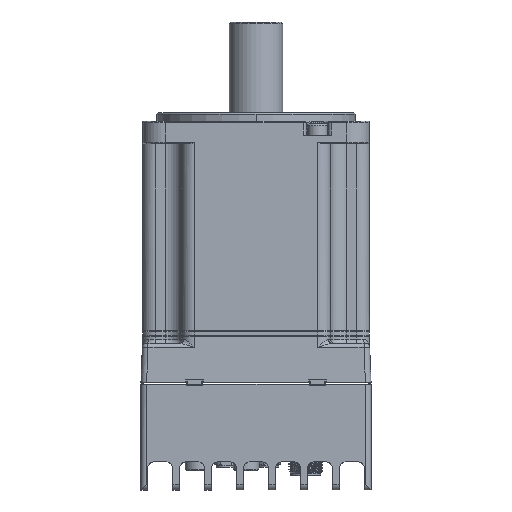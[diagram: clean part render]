
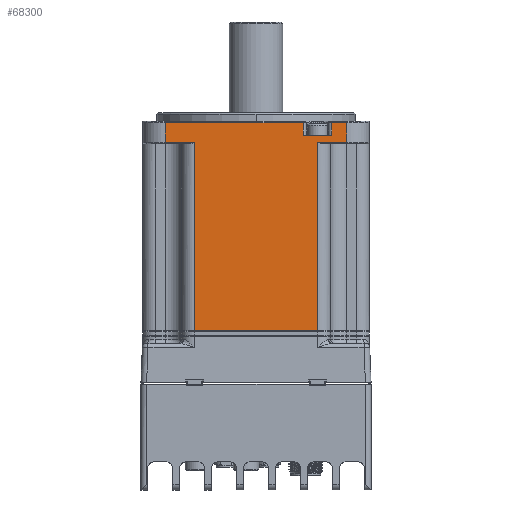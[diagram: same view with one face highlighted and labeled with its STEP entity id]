
A CAD part, front view. The second image highlights one B-rep face of the part: STEP entity #68300.
In plain terms, the highlighted planar face has unit normal (0, -1, 0).
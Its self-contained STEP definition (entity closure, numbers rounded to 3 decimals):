
#3789 = CARTESIAN_POINT ( 'NONE',  ( 21.75, -31.858, 26.51 ) ) ;
#4198 = CARTESIAN_POINT ( 'NONE',  ( 16.684, -31.858, 29.01 ) ) ;
#4343 = CARTESIAN_POINT ( 'NONE',  ( 26.684, -31.858, 29.01 ) ) ;
#4485 = VECTOR ( 'NONE', #50437, 1000. ) ;
#4823 = ORIENTED_EDGE ( 'NONE', *, *, #61426, .T. ) ;
#5024 = EDGE_CURVE ( 'NONE', #34224, #65947, #62371, .T. ) ;
#5819 = LINE ( 'NONE', #25052, #29388 ) ;
#6743 = VERTEX_POINT ( 'NONE', #86342 ) ;
#6771 = CARTESIAN_POINT ( 'NONE',  ( -21.75, -31.858, -39.99 ) ) ;
#7351 = DIRECTION ( 'NONE',  ( 0., 1., 0. ) ) ;
#7800 = VECTOR ( 'NONE', #67880, 1000. ) ;
#8223 = EDGE_CURVE ( 'NONE', #43093, #20001, #13512, .T. ) ;
#9158 = VECTOR ( 'NONE', #64907, 1000. ) ;
#10995 = CARTESIAN_POINT ( 'NONE',  ( 32., -31.858, 26.51 ) ) ;
#11133 = LINE ( 'NONE', #50824, #75908 ) ;
#11795 = DIRECTION ( 'NONE',  ( 0., 0., 1. ) ) ;
#11840 = VECTOR ( 'NONE', #15787, 1000. ) ;
#12400 = ORIENTED_EDGE ( 'NONE', *, *, #37027, .F. ) ;
#13512 = LINE ( 'NONE', #6771, #7800 ) ;
#14539 = CARTESIAN_POINT ( 'NONE',  ( 40., -31.858, -39.99 ) ) ;
#15029 = CARTESIAN_POINT ( 'NONE',  ( -32., -31.858, 22.51 ) ) ;
#15246 = LINE ( 'NONE', #45073, #4485 ) ;
#15787 = DIRECTION ( 'NONE',  ( 0., 0., 1. ) ) ;
#16259 = LINE ( 'NONE', #30113, #64856 ) ;
#17507 = CARTESIAN_POINT ( 'NONE',  ( -21.75, -31.858, 26.51 ) ) ;
#17950 = DIRECTION ( 'NONE',  ( -1., 0., 0. ) ) ;
#20001 = VERTEX_POINT ( 'NONE', #48736 ) ;
#20202 = VERTEX_POINT ( 'NONE', #83247 ) ;
#22463 = ORIENTED_EDGE ( 'NONE', *, *, #56523, .T. ) ;
#22504 = EDGE_CURVE ( 'NONE', #25258, #20202, #43549, .T. ) ;
#23339 = CARTESIAN_POINT ( 'NONE',  ( 26.684, -31.858, 33.51 ) ) ;
#25052 = CARTESIAN_POINT ( 'NONE',  ( 26.684, -31.858, 22.51 ) ) ;
#25258 = VERTEX_POINT ( 'NONE', #36769 ) ;
#29388 = VECTOR ( 'NONE', #51801, 1000. ) ;
#30113 = CARTESIAN_POINT ( 'NONE',  ( 16.684, -31.858, 22.51 ) ) ;
#32424 = FACE_OUTER_BOUND ( 'NONE', #55711, .T. ) ;
#33163 = EDGE_CURVE ( 'NONE', #51460, #25258, #15246, .T. ) ;
#34224 = VERTEX_POINT ( 'NONE', #3789 ) ;
#36436 = EDGE_CURVE ( 'NONE', #6743, #34224, #76823, .T. ) ;
#36769 = CARTESIAN_POINT ( 'NONE',  ( -32., -31.858, 33.51 ) ) ;
#37027 = EDGE_CURVE ( 'NONE', #48157, #45505, #48050, .T. ) ;
#37041 = DIRECTION ( 'NONE',  ( 0., 0., 1. ) ) ;
#38487 = LINE ( 'NONE', #23339, #65954 ) ;
#41813 = DIRECTION ( 'NONE',  ( 1., 0., 0. ) ) ;
#41833 = CARTESIAN_POINT ( 'NONE',  ( 40., -31.858, 26.51 ) ) ;
#43093 = VERTEX_POINT ( 'NONE', #17507 ) ;
#43112 = EDGE_CURVE ( 'NONE', #6743, #20001, #79440, .T. ) ;
#43546 = VECTOR ( 'NONE', #48897, 1000. ) ;
#43549 = LINE ( 'NONE', #15029, #43546 ) ;
#45073 = CARTESIAN_POINT ( 'NONE',  ( -32., -31.858, 33.51 ) ) ;
#45505 = VERTEX_POINT ( 'NONE', #4343 ) ;
#47140 = EDGE_CURVE ( 'NONE', #20202, #43093, #72456, .T. ) ;
#47530 = CARTESIAN_POINT ( 'NONE',  ( 32., -31.858, 33.51 ) ) ;
#48050 = LINE ( 'NONE', #82806, #68813 ) ;
#48157 = VERTEX_POINT ( 'NONE', #4198 ) ;
#48736 = CARTESIAN_POINT ( 'NONE',  ( -21.75, -31.858, -39.99 ) ) ;
#48897 = DIRECTION ( 'NONE',  ( 0., 0., -1. ) ) ;
#50437 = DIRECTION ( 'NONE',  ( -1., 0., 0. ) ) ;
#50824 = CARTESIAN_POINT ( 'NONE',  ( 32., -31.858, 22.51 ) ) ;
#51107 = VECTOR ( 'NONE', #17950, 1000. ) ;
#51460 = VERTEX_POINT ( 'NONE', #86699 ) ;
#51801 = DIRECTION ( 'NONE',  ( 0., 0., -1. ) ) ;
#55711 = EDGE_LOOP ( 'NONE', ( #77502, #84527, #66125, #22463, #81013, #4823, #12400, #71049, #82927, #75136, #60819, #66212 ) ) ;
#56523 = EDGE_CURVE ( 'NONE', #65947, #63753, #11133, .T. ) ;
#60819 = ORIENTED_EDGE ( 'NONE', *, *, #47140, .T. ) ;
#61426 = EDGE_CURVE ( 'NONE', #79940, #45505, #5819, .T. ) ;
#61796 = DIRECTION ( 'NONE',  ( 0., 0., 1. ) ) ;
#62371 = LINE ( 'NONE', #41833, #82913 ) ;
#63520 = CARTESIAN_POINT ( 'NONE',  ( 21.75, -31.858, -39.99 ) ) ;
#63753 = VERTEX_POINT ( 'NONE', #47530 ) ;
#64856 = VECTOR ( 'NONE', #11795, 1000. ) ;
#64907 = DIRECTION ( 'NONE',  ( 1., 0., 0. ) ) ;
#65472 = CARTESIAN_POINT ( 'NONE',  ( 26.684, -31.858, 33.51 ) ) ;
#65947 = VERTEX_POINT ( 'NONE', #10995 ) ;
#65954 = VECTOR ( 'NONE', #78575, 1000. ) ;
#66125 = ORIENTED_EDGE ( 'NONE', *, *, #5024, .T. ) ;
#66212 = ORIENTED_EDGE ( 'NONE', *, *, #8223, .T. ) ;
#66884 = AXIS2_PLACEMENT_3D ( 'NONE', #14539, #7351, #61796 ) ;
#67880 = DIRECTION ( 'NONE',  ( 0., 0., -1. ) ) ;
#68139 = DIRECTION ( 'NONE',  ( 1., 0., 0. ) ) ;
#68300 = ADVANCED_FACE ( 'NONE', ( #32424 ), #86765, .F. ) ;
#68813 = VECTOR ( 'NONE', #41813, 1000. ) ;
#70997 = CARTESIAN_POINT ( 'NONE',  ( 40., -31.858, -39.99 ) ) ;
#71049 = ORIENTED_EDGE ( 'NONE', *, *, #74466, .T. ) ;
#71828 = EDGE_CURVE ( 'NONE', #63753, #79940, #38487, .T. ) ;
#72456 = LINE ( 'NONE', #85395, #9158 ) ;
#74466 = EDGE_CURVE ( 'NONE', #48157, #51460, #16259, .T. ) ;
#75136 = ORIENTED_EDGE ( 'NONE', *, *, #22504, .T. ) ;
#75908 = VECTOR ( 'NONE', #37041, 1000. ) ;
#76823 = LINE ( 'NONE', #63520, #11840 ) ;
#77502 = ORIENTED_EDGE ( 'NONE', *, *, #43112, .F. ) ;
#78575 = DIRECTION ( 'NONE',  ( -1., 0., 0. ) ) ;
#79440 = LINE ( 'NONE', #70997, #51107 ) ;
#79940 = VERTEX_POINT ( 'NONE', #65472 ) ;
#81013 = ORIENTED_EDGE ( 'NONE', *, *, #71828, .T. ) ;
#82806 = CARTESIAN_POINT ( 'NONE',  ( 40., -31.858, 29.01 ) ) ;
#82913 = VECTOR ( 'NONE', #68139, 1000. ) ;
#82927 = ORIENTED_EDGE ( 'NONE', *, *, #33163, .T. ) ;
#83247 = CARTESIAN_POINT ( 'NONE',  ( -32., -31.858, 26.51 ) ) ;
#84527 = ORIENTED_EDGE ( 'NONE', *, *, #36436, .T. ) ;
#85395 = CARTESIAN_POINT ( 'NONE',  ( 40., -31.858, 26.51 ) ) ;
#86342 = CARTESIAN_POINT ( 'NONE',  ( 21.75, -31.858, -39.99 ) ) ;
#86699 = CARTESIAN_POINT ( 'NONE',  ( 16.684, -31.858, 33.51 ) ) ;
#86765 = PLANE ( 'NONE',  #66884 ) ;
